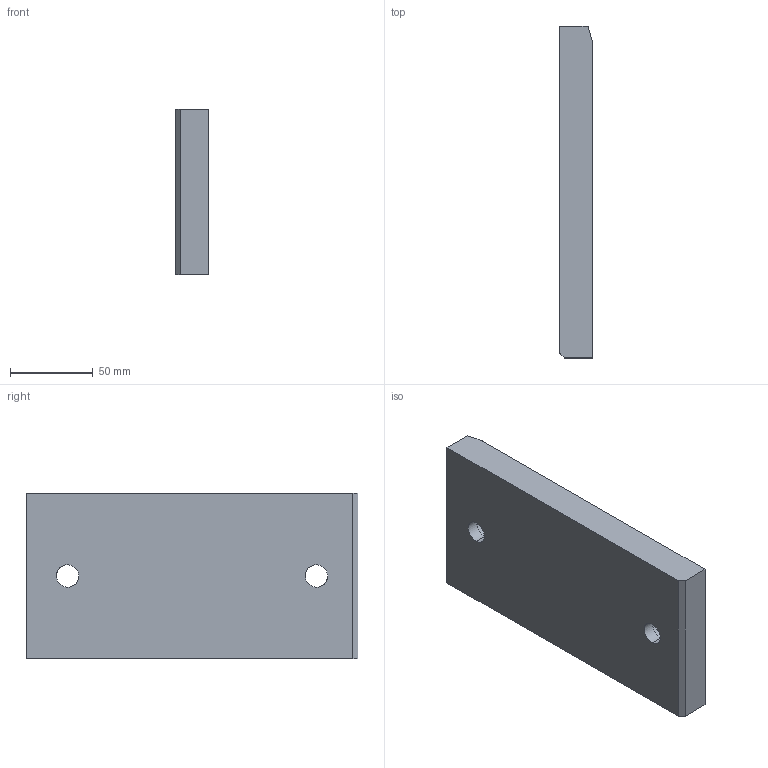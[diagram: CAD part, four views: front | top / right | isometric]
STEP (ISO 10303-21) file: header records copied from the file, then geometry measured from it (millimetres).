
FILE_DESCRIPTION(('CATIA V5 STEP Exchange'),'2;1');
FILE_NAME('C:\Users\borellobunino\Desktop\3D X SITO CF\A915\GSB_OILLESS_G22501100200\STEP-2.03\A915-100X200.stp','2019-07-14T13:28:51+00:00',('none'),('none'),'CATIA Version 5 Release 20 GA (IN-10)','CATIA V5 STEP AP203','none');
FILE_SCHEMA(('CONFIG_CONTROL_DESIGN'));
Length unit declared in the file: millimetre
Products named in the file (1): A915-100X200
Bounding box: 20 x 200 x 100 mm (x, y, z)
Volume: 387777.3 mm3; surface area: 53056 mm2
Topology: 1 solids, 1 shells, 23 faces, 73 edges, 54 vertices
Faces by surface type: plane 10, cylinder 9, torus 4
Entity records: 1057 total; most frequent: CARTESIAN_POINT 375, ORIENTED_EDGE 146, DIRECTION 103, EDGE_CURVE 73, AXIS2_PLACEMENT_3D 54, VERTEX_POINT 54, CIRCLE 30, EDGE_LOOP 29
